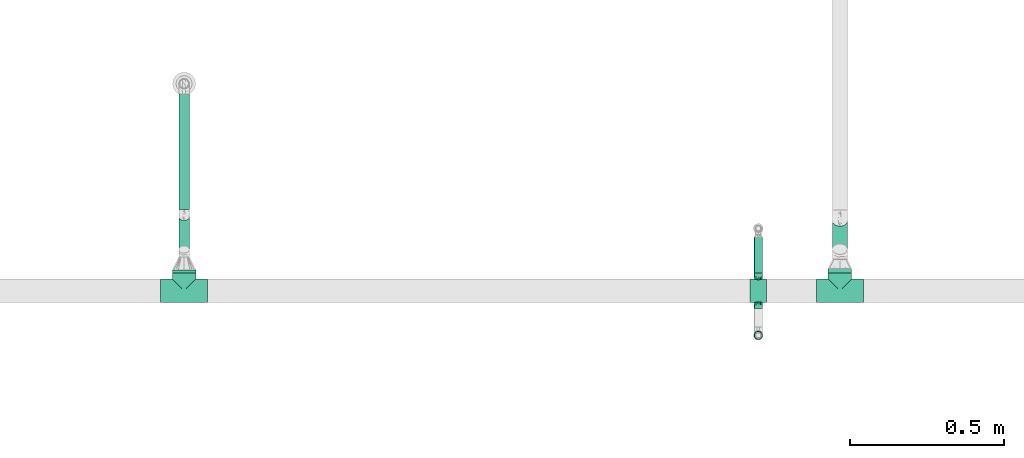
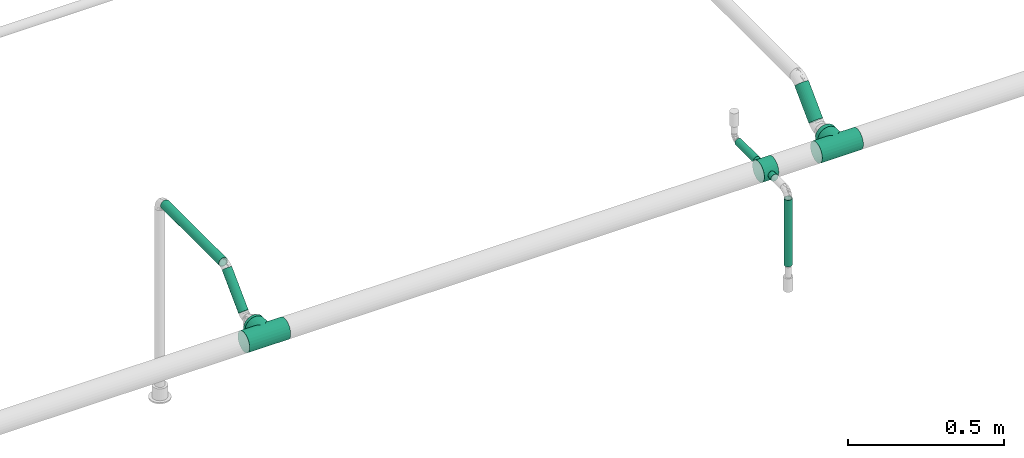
# One storey, part 5 of 51: 7 flow segments, 3 flow fittings.
"""IFC2X3 building model written with IfcOpenShell, lengths in millimetres."""

from ifc_helpers import new_model, entity, si_unit, converted_unit, derived_unit, direction, frame, origin_with_axes, origin_2d_with_axis, place, context, subcontext, project, spatial, hollow_circle, extrude, open_shell, surface_model, source, transform, mapped, type_object, element, save


model = new_model("IFC2X3")

# Units and contexts
model_context = context("Model", 3, precision=0.01, world=frame((0.0, 4.29681676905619e-09, 0.0)), true_north=direction((4.01073788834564e-13, 1.0)))
plan_context = context("Plan", 3, precision=0.01, world=frame((0.0, 4.29681676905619e-09, 0.0)), true_north=direction((4.01073788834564e-13, 1.0)))
body_context = subcontext(model_context, "Body", "Model", "MODEL_VIEW")
ifc_project = project(units=[converted_unit("PLANEANGLEUNIT", "DEGREE", entity("IfcPositiveLengthMeasure", 0.0174532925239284), si_unit("PLANEANGLEUNIT", "RADIAN"), dimensions=[0, 0, 0, 0, 0, 0, 0]), si_unit("AREAUNIT", "SQUARE_METRE"), si_unit("LENGTHUNIT", "METRE", prefix="MILLI"), si_unit("MASSUNIT", "GRAM", prefix="KILO"), si_unit("POWERUNIT", "WATT"), si_unit("PRESSUREUNIT", "PASCAL"), si_unit("FORCEUNIT", "NEWTON", prefix="KILO"), si_unit("ELECTRICVOLTAGEUNIT", "VOLT"), si_unit("ELECTRICCURRENTUNIT", "AMPERE"), si_unit("THERMODYNAMICTEMPERATUREUNIT", "DEGREE_CELSIUS"), si_unit("TIMEUNIT", "SECOND"), si_unit("VOLUMEUNIT", "CUBIC_METRE"), derived_unit("LINEARVELOCITYUNIT", [(si_unit("LENGTHUNIT", "METRE"), 1), (si_unit("TIMEUNIT", "SECOND"), -1)]), derived_unit("VOLUMETRICFLOWRATEUNIT", [(si_unit("VOLUMEUNIT", "CUBIC_METRE"), 1), (si_unit("TIMEUNIT", "SECOND"), -1)]), derived_unit("THERMALTRANSMITTANCEUNIT", [(si_unit("POWERUNIT", "WATT"), 1), (si_unit("THERMODYNAMICTEMPERATUREUNIT", "KELVIN"), -1), (si_unit("AREAUNIT", "SQUARE_METRE"), -1)]), derived_unit("SOUNDPRESSUREUNIT", [(si_unit("PRESSUREUNIT", "PASCAL"), 1)])], contexts=[model_context, plan_context])

# Site, building, storey
site_placement = place(None, frame((0.0, -4.29681676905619e-09, 0.0), z_axis=(0.0, 0.0, 1.0), x_axis=(1.0, 0.0, 0.0)))
site = spatial("IfcSite", under=ifc_project, at=site_placement, Name="ENGM", CompositionType="ELEMENT")
building_placement = place(site_placement, frame((0.0, 4.29681676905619e-09, 0.0), z_axis=(0.0, 0.0, 1.0), x_axis=(1.0, 0.0, 0.0)))
building = spatial("IfcBuilding", under=site, at=building_placement, Name="TH", CompositionType="ELEMENT")
storey_placement = place(building_placement, frame((0.0, 0.0, 210200.0), z_axis=(0.0, 0.0, 1.0), x_axis=(1.0, 0.0, 0.0)))
storey = spatial("IfcBuildingStorey", under=building, at=storey_placement, Name="Nivå F - 0,7 m", CompositionType="ELEMENT", Elevation=210200.0)

# Flow fittings
pipe_fitting_type_1 = type_object("IfcPipeFittingType", Name="magi_pipe_fe_tee_centric_90_NOR", PredefinedType="JUNCTION")
shared_shape_1 = source(origin_with_axes(), body_context, "Body", "SurfaceModel", [
    surface_model("IfcShellBasedSurfaceModel", [(-76.2, 19.05, -32.99557), (-76.2, 9.86101, -36.80177), (-76.2, 0.0, -38.1), (-76.2, 26.94077, -26.94077), (-76.2, 36.80177, -9.86101), (-76.2, 32.99557, -19.05), (-76.2, -19.05, -32.99557), (-76.2, -26.94077, -26.94077), (-76.2, -9.86101, -36.80177), (-76.2, 38.1, 0.0), (-76.2, 36.80177, 9.86101), (-76.2, -38.1, 0.0), (-76.2, -36.80177, -9.86101), (-76.2, -32.99557, -19.05), (-76.2, 32.99557, 19.05), (-76.2, -36.80177, 9.86101), (-76.2, 19.05, 32.99557), (-76.2, 26.94077, 26.94077), (-76.2, 0.0, 38.1), (-76.2, 9.86101, 36.80177), (-76.2, -26.94077, 26.94077), (-76.2, -32.99557, 19.05), (-76.2, -9.86101, 36.80177), (-76.2, -19.05, 32.99557), (76.2, 0.0, -38.1), (76.2, -36.80177, 9.86101), (76.2, -38.1, 0.0), (76.2, 36.80177, -9.86101), (76.2, 9.86101, -36.80177), (76.2, 19.05, -32.99557), (76.2, 26.94077, -26.94077), (76.2, 32.99557, -19.05), (76.2, -9.86101, -36.80177), (76.2, -26.94077, -26.94077), (76.2, -19.05, -32.99557), (76.2, -32.99557, -19.05), (76.2, -36.80177, -9.86101), (76.2, 19.05, 32.99557), (76.2, 36.80177, 9.86101), (76.2, 32.99557, 19.05), (76.2, 0.0, 38.1), (76.2, 26.94077, 26.94077), (76.2, 9.86101, 36.80177), (76.2, -32.99557, 19.05), (76.2, -26.94077, 26.94077), (76.2, -19.05, 32.99557), (76.2, -9.86101, 36.80177), (76.2, 38.1, 0.0), (37.03376, -37.03376, 8.95045), (38.1, -38.1, 0.0), (76.2, -34.89867, 14.4555), (35.56052, -35.56052, 12.98504), (34.08727, -34.08727, 17.01964), (18.8305, -18.8305, 33.12132), (76.2, -22.99539, 29.96817), (29.78269, -29.78269, 23.76134), (76.2, -29.96817, 22.99539), (24.5894, -24.5894, 29.10277), (-35.56052, -35.56052, 12.98504), (-76.2, -34.89867, 14.4555), (-34.08727, -34.08727, 17.01964), (-37.03376, -37.03376, 8.95045), (-38.1, -38.1, 0.0), (-18.8305, -18.8305, 33.12132), (-76.2, -22.99539, 29.96817), (-29.78269, -29.78269, 23.76134), (-24.5894, -24.5894, 29.10277), (-76.2, -29.96817, 22.99539), (-12.71924, -12.71924, 35.91422), (6.40528, -6.40528, 37.55772), (12.71924, -12.71924, 35.91422), (0.0, 0.0, 38.1), (-6.40528, -6.40528, 37.55772), (6.40528, -6.40528, -37.55772), (0.0, 0.0, -38.1), (12.71924, -12.71924, -35.91422), (-24.5894, -24.5894, -29.10277), (-76.2, -22.99539, -29.96817), (-35.56052, -35.56052, -12.98504), (-37.03376, -37.03376, -8.95045), (-29.78269, -29.78269, -23.76134), (-76.2, -29.96817, -22.99539), (-6.40528, -6.40528, -37.55772), (-12.71924, -12.71924, -35.91422), (18.8305, -18.8305, -33.12132), (76.2, -22.99539, -29.96817), (24.5894, -24.5894, -29.10277), (-76.2, -34.89867, -14.4555), (-34.08727, -34.08727, -17.01964), (29.78269, -29.78269, -23.76134), (76.2, -29.96817, -22.99539), (37.03376, -37.03376, -8.95045), (35.56052, -35.56052, -12.98504), (34.08727, -34.08727, -17.01964), (76.2, -34.89867, -14.4555), (-18.8305, -18.8305, -33.12132), (0.0, -57.15, -38.1), (9.86101, -57.15, -36.80177), (19.05, -57.15, -32.99557), (26.94077, -57.15, -26.94077), (32.99557, -57.15, -19.05), (36.80177, -57.15, -9.86101), (0.0, -57.15, 38.1), (-26.94077, -57.15, -26.94077), (-9.86101, -57.15, -36.80177), (-19.05, -57.15, -32.99557), (-36.80177, -57.15, -9.86101), (-32.99557, -57.15, -19.05), (-32.99557, -57.15, 19.05), (-36.80177, -57.15, 9.86101), (-38.1, -57.15, 0.0), (19.05, -57.15, 32.99557), (36.80177, -57.15, 9.86101), (32.99557, -57.15, 19.05), (26.94077, -57.15, 26.94077), (9.86101, -57.15, 36.80177), (-26.94077, -57.15, 26.94077), (-19.05, -57.15, 32.99557), (-9.86101, -57.15, 36.80177), (38.1, -57.15, 0.0)], [open_shell([[[0, 1, 2]], [[3, 0, 2]], [[4, 5, 3]], [[6, 7, 8]], [[9, 4, 10]], [[11, 3, 2]], [[4, 3, 11]], [[11, 8, 7]], [[12, 11, 13]], [[7, 13, 11]], [[11, 2, 8]], [[11, 10, 4]], [[14, 10, 11]], [[14, 11, 15]], [[15, 16, 14]], [[17, 14, 16]], [[18, 19, 16]], [[20, 18, 21]], [[15, 21, 18]], [[22, 18, 23]], [[20, 23, 18]], [[18, 16, 15]], [[24, 25, 26]], [[27, 28, 29]], [[30, 31, 27]], [[30, 27, 29]], [[28, 25, 24]], [[32, 33, 34]], [[32, 24, 33]], [[35, 26, 36]], [[26, 35, 33]], [[24, 26, 33]], [[28, 27, 37]], [[27, 38, 37]], [[37, 38, 39]], [[37, 40, 28]], [[37, 39, 41]], [[40, 37, 42]], [[43, 40, 44]], [[25, 28, 43]], [[45, 40, 46]], [[40, 45, 44]], [[40, 43, 28]], [[38, 27, 47]], [[26, 25, 48]], [[48, 49, 26]], [[25, 50, 51]], [[50, 43, 52]], [[45, 53, 54]], [[44, 55, 56]], [[55, 44, 57]], [[43, 55, 52]], [[57, 44, 54]], [[15, 58, 59]], [[60, 59, 58]], [[61, 11, 62]], [[11, 61, 15]], [[15, 61, 58]], [[63, 23, 64]], [[65, 66, 20]], [[65, 67, 21]], [[20, 66, 64]], [[63, 68, 23]], [[65, 21, 60]], [[50, 52, 51]], [[54, 53, 57]], [[46, 40, 69]], [[25, 51, 48]], [[53, 45, 70]], [[69, 70, 46]], [[65, 20, 67]], [[69, 40, 71]], [[70, 45, 46]], [[14, 41, 39]], [[10, 39, 38]], [[16, 42, 37]], [[17, 37, 41]], [[42, 71, 40]], [[9, 38, 47]], [[72, 71, 18]], [[60, 21, 59]], [[72, 22, 68]], [[22, 72, 18]], [[22, 23, 68]], [[71, 19, 18]], [[63, 64, 66]], [[42, 19, 71]], [[16, 19, 42]], [[16, 37, 17]], [[14, 17, 41]], [[10, 14, 39]], [[38, 9, 10]], [[55, 43, 56]], [[3, 31, 30]], [[4, 27, 31]], [[9, 47, 27]], [[0, 30, 29]], [[24, 32, 73]], [[28, 24, 74]], [[73, 32, 75]], [[76, 7, 77]], [[29, 28, 1]], [[32, 34, 75]], [[24, 73, 74]], [[4, 31, 5]], [[0, 3, 30]], [[5, 31, 3]], [[9, 27, 4]], [[12, 78, 79]], [[80, 13, 81]], [[82, 83, 8]], [[74, 82, 2]], [[74, 2, 1]], [[2, 82, 8]], [[83, 6, 8]], [[1, 0, 29]], [[74, 1, 28]], [[84, 85, 86]], [[85, 33, 86]], [[87, 88, 78]], [[84, 34, 85]], [[89, 86, 33]], [[90, 35, 89]], [[34, 84, 75]], [[36, 91, 92]], [[91, 36, 26]], [[93, 94, 92]], [[49, 91, 26]], [[35, 93, 89]], [[76, 77, 95]], [[36, 92, 94]], [[77, 6, 95]], [[7, 76, 80]], [[7, 80, 81]], [[93, 35, 94]], [[95, 6, 83]], [[79, 62, 11]], [[12, 87, 78]], [[88, 87, 13]], [[12, 79, 11]], [[88, 13, 80]], [[89, 33, 90]], [[96, 97, 98]], [[96, 98, 99]], [[99, 100, 101]], [[99, 101, 96]], [[102, 103, 96]], [[104, 103, 105]], [[104, 96, 103]], [[103, 106, 107]], [[103, 108, 106]], [[106, 109, 110]], [[111, 96, 101]], [[112, 113, 101]], [[101, 113, 111]], [[111, 102, 96]], [[111, 113, 114]], [[102, 111, 115]], [[108, 102, 116]], [[109, 106, 108]], [[117, 102, 118]], [[102, 117, 116]], [[102, 108, 103]], [[112, 101, 119]], [[61, 62, 110]], [[109, 61, 110]], [[116, 117, 66]], [[65, 108, 116]], [[60, 109, 108]], [[68, 117, 118]], [[60, 61, 109]], [[66, 65, 116]], [[60, 108, 65]], [[68, 63, 117]], [[102, 71, 72]], [[68, 118, 72]], [[66, 117, 63]], [[72, 118, 102]], [[69, 102, 115]], [[111, 70, 115]], [[113, 112, 52]], [[55, 114, 113]], [[57, 111, 114]], [[48, 112, 119]], [[57, 53, 111]], [[70, 69, 115]], [[53, 70, 111]], [[49, 48, 119]], [[52, 55, 113]], [[48, 52, 112]], [[57, 114, 55]], [[102, 69, 71]], [[49, 119, 91]], [[101, 91, 119]], [[89, 100, 99]], [[99, 98, 86]], [[93, 101, 100]], [[75, 98, 97]], [[93, 91, 101]], [[86, 89, 99]], [[93, 100, 89]], [[75, 84, 98]], [[96, 74, 73]], [[75, 97, 73]], [[86, 98, 84]], [[73, 97, 96]], [[82, 96, 104]], [[105, 83, 104]], [[107, 106, 88]], [[80, 103, 107]], [[76, 105, 103]], [[79, 106, 110]], [[76, 95, 105]], [[83, 82, 104]], [[95, 83, 105]], [[62, 79, 110]], [[88, 80, 107]], [[79, 88, 106]], [[76, 103, 80]], [[96, 82, 74]]])]),
])
for number, where, z_axis, x_axis, name in (
    (1, (901220.93402, 484329.45519, 2933.0), (0.0, 0.0, 1.0), (-1.0, 0.0, 0.0), "magi_pipe_fe_tee_centric_90_NOR"),
    (2, (903344.15403, 484329.45519, 2933.0), (0.0, 0.0, 1.0), (-1.0, 0.0, 0.0), "magi_pipe_fe_tee_centric_90_NOR"),
):
    element("IfcFlowFitting", number, at=place(storey_placement, frame(where, z_axis=z_axis, x_axis=x_axis)), inside=storey, type_object=pipe_fitting_type_1, Name=name, context=body_context, shape_type="MappedRepresentation", body=[
        mapped(shared_shape_1, transform((0.0, 0.0, 0.0), scale=1.0)),
    ])
pipe_fitting_type_2 = type_object("IfcPipeFittingType", Name="magi_pipe_fe_cross_centric_90_001", PredefinedType="JUNCTION")
shared_shape_2 = source(origin_with_axes(), body_context, "Body", "SurfaceModel", [
    surface_model("IfcShellBasedSurfaceModel", [(-26.8, 19.05, -32.99557), (-26.8, 9.86101, -36.80177), (-26.8, 0.0, -38.1), (-26.8, 26.94077, -26.94077), (-26.8, 36.80177, -9.86101), (-26.8, 32.99557, -19.05), (-26.8, -36.80177, 9.86101), (-26.8, -38.1, 0.0), (-26.8, -19.05, -32.99557), (-26.8, -26.94077, -26.94077), (-26.8, -9.86101, -36.80177), (-26.8, -36.80177, -9.86101), (-26.8, -32.99557, -19.05), (-26.8, 38.1, 0.0), (-26.8, 32.99557, 19.05), (-26.8, 36.80177, 9.86101), (-26.8, 19.05, 32.99557), (-26.8, 26.94077, 26.94077), (-26.8, 0.0, 38.1), (-26.8, 9.86101, 36.80177), (-26.8, -26.94077, 26.94077), (-26.8, -32.99557, 19.05), (-26.8, -9.86101, 36.80177), (-26.8, -19.05, 32.99557), (26.8, 0.0, -38.1), (26.8, 9.86101, -36.80177), (26.8, 19.05, -32.99557), (26.8, 26.94077, -26.94077), (26.8, 32.99557, -19.05), (26.8, 36.80177, -9.86101), (26.8, -26.94077, -26.94077), (26.8, -38.1, 0.0), (26.8, -9.86101, -36.80177), (26.8, -19.05, -32.99557), (26.8, -32.99557, -19.05), (26.8, -36.80177, -9.86101), (26.8, 36.80177, 9.86101), (26.8, 32.99557, 19.05), (26.8, 19.05, 32.99557), (26.8, 0.0, 38.1), (26.8, 26.94077, 26.94077), (26.8, 9.86101, 36.80177), (26.8, -32.99557, 19.05), (26.8, -26.94077, 26.94077), (26.8, -36.80177, 9.86101), (26.8, -19.05, 32.99557), (26.8, -9.86101, 36.80177), (26.8, 38.1, 0.0), (10.25617, -37.11117, 8.62386), (26.8, -37.45089, 4.9305), (12.58238, -37.82018, 4.60909), (13.4, -38.1, 0.0), (6.72002, -36.29337, 11.59316), (2.34178, -35.74261, 13.19379), (-12.58238, 37.82018, 4.60909), (-26.8, 37.45089, 4.9305), (-10.25983, -37.11218, 8.6195), (-6.72112, -36.29357, 11.59252), (-26.8, -37.45089, 4.9305), (-13.4, -38.1, 0.0), (-12.58273, -37.8203, 4.60814), (-2.34536, -35.74284, 13.19315), (12.58273, 37.8203, 4.60814), (26.8, 37.45089, 4.9305), (13.4, 38.1, 0.0), (10.25983, 37.11218, 8.6195), (6.72112, 36.29357, 11.59252), (2.34536, 35.74284, 13.19315), (-2.34178, 35.74261, 13.19379), (-6.72002, 36.29337, 11.59316), (-10.25617, 37.11117, 8.62386), (-13.4, 38.1, 0.0), (10.25983, 37.11218, -8.6195), (26.8, 37.45089, -4.9305), (12.58273, 37.8203, -4.60814), (6.72112, 36.29357, -11.59252), (-10.25617, 37.11117, -8.62386), (-26.8, 37.45089, -4.9305), (-12.58238, 37.82018, -4.60909), (2.34536, 35.74284, -13.19315), (-2.34178, 35.74261, -13.19379), (-6.72002, 36.29337, -11.59316), (-12.58273, -37.8203, -4.60814), (-26.8, -37.45089, -4.9305), (10.25617, -37.11117, -8.62386), (26.8, -37.45089, -4.9305), (12.58238, -37.82018, -4.60909), (6.72002, -36.29337, -11.59316), (2.34178, -35.74261, -13.19379), (-2.34536, -35.74284, -13.19315), (-6.72112, -36.29357, -11.59252), (-10.25983, -37.11218, -8.6195), (9.47523, -57.15, -9.47523), (0.0, -57.15, -13.4), (3.46818, -57.15, -12.94341), (6.7, -57.15, -11.60474), (11.60474, -57.15, -6.7), (12.94341, -57.15, -3.46818), (-12.94341, -57.15, 3.46818), (-12.94341, -57.15, -3.46818), (-3.46818, -57.15, -12.94341), (-9.47523, -57.15, -9.47523), (-6.7, -57.15, -11.60474), (-11.60474, -57.15, -6.7), (-13.4, -57.15, 0.0), (13.4, -57.15, 0.0), (12.94341, -57.15, 3.46818), (11.60474, -57.15, 6.7), (6.7, -57.15, 11.60474), (9.47523, -57.15, 9.47523), (3.46818, -57.15, 12.94341), (-9.47523, -57.15, 9.47523), (-11.60474, -57.15, 6.7), (-6.7, -57.15, 11.60474), (-3.46818, -57.15, 12.94341), (0.0, -57.15, 13.4), (-12.99136, -37.96015, 2.30407), (-4.53324, -36.01821, 12.39284), (-0.00179, -35.74272, 13.19347), (4.5309, -36.01799, 12.39347), (12.99119, -37.96009, 2.30455), (12.99119, -37.96009, -2.30455), (-12.99136, -37.96015, -2.30407), (4.5309, -36.01799, -12.39347), (-0.00179, -35.74272, -13.19347), (-4.53324, -36.01821, -12.39284), (0.0, 57.15, -13.4), (-3.46818, 57.15, -12.94341), (-6.7, 57.15, -11.60474), (-9.47523, 57.15, -9.47523), (-11.60474, 57.15, -6.7), (-12.94341, 57.15, -3.46818), (11.60474, 57.15, -6.7), (12.94341, 57.15, 3.46818), (12.94341, 57.15, -3.46818), (3.46818, 57.15, -12.94341), (9.47523, 57.15, -9.47523), (6.7, 57.15, -11.60474), (13.4, 57.15, 0.0), (-13.4, 57.15, 0.0), (-12.94341, 57.15, 3.46818), (-11.60474, 57.15, 6.7), (-6.7, 57.15, 11.60474), (-9.47523, 57.15, 9.47523), (0.0, 57.15, 13.4), (-3.46818, 57.15, 12.94341), (11.60474, 57.15, 6.7), (6.7, 57.15, 11.60474), (9.47523, 57.15, 9.47523), (3.46818, 57.15, 12.94341), (12.99136, 37.96015, 2.30407), (4.53324, 36.01821, 12.39284), (0.00179, 35.74272, 13.19347), (-4.5309, 36.01799, 12.39347), (-12.99119, 37.96009, 2.30455), (-12.99119, 37.96009, -2.30455), (12.99136, 37.96015, -2.30407), (-4.5309, 36.01799, -12.39347), (0.00179, 35.74272, -13.19347), (4.53324, 36.01821, -12.39284)], [open_shell([[[0, 1, 2]], [[3, 0, 2]], [[4, 5, 3]], [[6, 2, 7]], [[2, 6, 3]], [[8, 9, 10]], [[7, 10, 9]], [[11, 7, 12]], [[9, 12, 7]], [[7, 2, 10]], [[13, 4, 3]], [[14, 15, 13]], [[14, 13, 6]], [[6, 16, 14]], [[17, 14, 16]], [[16, 18, 19]], [[20, 18, 21]], [[6, 21, 18]], [[22, 18, 23]], [[20, 23, 18]], [[18, 16, 6]], [[3, 6, 13]], [[24, 25, 26]], [[24, 26, 27]], [[27, 28, 29]], [[24, 27, 30]], [[31, 27, 29]], [[32, 30, 33]], [[32, 24, 30]], [[34, 31, 35]], [[31, 34, 30]], [[27, 31, 30]], [[29, 36, 31]], [[36, 37, 31]], [[31, 37, 38]], [[38, 39, 31]], [[38, 37, 40]], [[39, 38, 41]], [[42, 39, 43]], [[44, 31, 42]], [[45, 39, 46]], [[39, 45, 43]], [[39, 42, 31]], [[36, 29, 47]], [[44, 48, 49]], [[50, 51, 31]], [[50, 49, 48]], [[44, 52, 48]], [[43, 20, 42]], [[45, 23, 43]], [[52, 42, 53]], [[42, 52, 44]], [[21, 53, 42]], [[45, 46, 22]], [[54, 13, 55]], [[56, 57, 6]], [[56, 6, 58]], [[59, 60, 7]], [[7, 60, 58]], [[57, 21, 6]], [[53, 21, 61]], [[42, 20, 21]], [[61, 21, 57]], [[23, 20, 43]], [[45, 22, 23]], [[46, 18, 22]], [[50, 31, 49]], [[46, 39, 18]], [[40, 17, 38]], [[41, 19, 39]], [[41, 38, 16]], [[14, 40, 37]], [[62, 63, 47]], [[62, 47, 64]], [[65, 66, 36]], [[65, 36, 63]], [[36, 66, 37]], [[67, 37, 66]], [[19, 41, 16]], [[68, 37, 67]], [[56, 58, 60]], [[37, 68, 14]], [[17, 16, 38]], [[40, 14, 17]], [[68, 69, 14]], [[65, 63, 62]], [[54, 55, 70]], [[69, 70, 15]], [[55, 15, 70]], [[13, 54, 71]], [[69, 15, 14]], [[39, 19, 18]], [[29, 72, 73]], [[74, 64, 47]], [[74, 73, 72]], [[29, 75, 72]], [[76, 77, 78]], [[79, 28, 80]], [[28, 79, 75]], [[27, 5, 28]], [[26, 3, 27]], [[26, 25, 0]], [[28, 75, 29]], [[76, 81, 4]], [[76, 4, 77]], [[71, 78, 13]], [[13, 78, 77]], [[81, 5, 4]], [[0, 3, 26]], [[25, 1, 0]], [[82, 7, 83]], [[3, 5, 27]], [[5, 80, 28]], [[84, 85, 86]], [[25, 2, 1]], [[80, 5, 81]], [[74, 47, 73]], [[25, 24, 2]], [[30, 9, 33]], [[32, 10, 24]], [[32, 33, 8]], [[12, 30, 34]], [[86, 85, 31]], [[86, 31, 51]], [[84, 87, 35]], [[84, 35, 85]], [[35, 87, 34]], [[88, 34, 87]], [[10, 32, 8]], [[88, 12, 34]], [[12, 88, 89]], [[9, 8, 33]], [[30, 12, 9]], [[89, 90, 12]], [[82, 83, 91]], [[90, 91, 11]], [[83, 11, 91]], [[7, 82, 59]], [[90, 11, 12]], [[24, 10, 2]], [[92, 93, 94]], [[92, 94, 95]], [[92, 96, 97]], [[93, 92, 98]], [[98, 99, 93]], [[100, 101, 102]], [[100, 93, 101]], [[103, 101, 93]], [[93, 99, 103]], [[99, 98, 104]], [[98, 92, 97]], [[105, 106, 107]], [[107, 108, 97]], [[108, 98, 97]], [[108, 107, 109]], [[98, 108, 110]], [[98, 111, 112]], [[111, 98, 113]], [[98, 114, 113]], [[114, 98, 115]], [[98, 110, 115]], [[97, 105, 107]], [[98, 116, 104]], [[56, 112, 111]], [[98, 112, 60]], [[111, 113, 57]], [[116, 59, 104]], [[60, 112, 56]], [[114, 61, 117]], [[57, 56, 111]], [[115, 53, 118]], [[108, 119, 110]], [[120, 105, 51]], [[117, 113, 114]], [[117, 57, 113]], [[52, 108, 109]], [[98, 60, 116]], [[50, 107, 106]], [[120, 50, 106]], [[107, 48, 109]], [[115, 61, 114]], [[110, 119, 53]], [[53, 115, 110]], [[52, 119, 108]], [[52, 109, 48]], [[48, 107, 50]], [[105, 120, 106]], [[118, 61, 115]], [[97, 121, 105]], [[84, 96, 92]], [[122, 104, 59]], [[96, 86, 97]], [[95, 87, 92]], [[121, 51, 105]], [[86, 96, 84]], [[94, 88, 123]], [[87, 84, 92]], [[93, 89, 124]], [[102, 125, 100]], [[123, 87, 95]], [[123, 95, 94]], [[97, 86, 121]], [[90, 102, 101]], [[102, 90, 125]], [[82, 103, 99]], [[103, 91, 101]], [[93, 88, 94]], [[89, 93, 100]], [[125, 89, 100]], [[124, 88, 93]], [[90, 101, 91]], [[91, 103, 82]], [[104, 122, 99]], [[122, 82, 99]], [[126, 127, 128]], [[126, 128, 129]], [[129, 130, 131]], [[126, 129, 132]], [[129, 133, 134]], [[135, 136, 137]], [[136, 135, 132]], [[126, 132, 135]], [[129, 134, 132]], [[134, 133, 138]], [[129, 131, 133]], [[139, 140, 141]], [[139, 141, 142]], [[139, 142, 133]], [[142, 141, 143]], [[144, 142, 145]], [[146, 147, 148]], [[144, 146, 133]], [[146, 149, 147]], [[149, 146, 144]], [[133, 142, 144]], [[139, 133, 131]], [[133, 150, 138]], [[65, 146, 148]], [[133, 146, 62]], [[148, 147, 66]], [[150, 64, 138]], [[62, 146, 65]], [[149, 67, 151]], [[66, 65, 148]], [[144, 68, 152]], [[142, 153, 145]], [[154, 139, 71]], [[151, 147, 149]], [[151, 66, 147]], [[69, 142, 143]], [[133, 62, 150]], [[54, 141, 140]], [[154, 54, 140]], [[141, 70, 143]], [[144, 67, 149]], [[145, 153, 68]], [[68, 144, 145]], [[69, 153, 142]], [[69, 143, 70]], [[70, 141, 54]], [[139, 154, 140]], [[152, 67, 144]], [[131, 155, 139]], [[76, 130, 129]], [[156, 138, 64]], [[130, 78, 131]], [[128, 81, 129]], [[155, 71, 139]], [[78, 130, 76]], [[127, 80, 157]], [[81, 76, 129]], [[126, 79, 158]], [[137, 159, 135]], [[157, 81, 128]], [[157, 128, 127]], [[131, 78, 155]], [[75, 137, 136]], [[137, 75, 159]], [[74, 132, 134]], [[132, 72, 136]], [[126, 80, 127]], [[79, 126, 135]], [[159, 79, 135]], [[158, 80, 126]], [[75, 136, 72]], [[72, 132, 74]], [[138, 156, 134]], [[156, 74, 134]]])]),
])
flow_fitting_placement = place(storey_placement, frame((903080.0, 484329.45519, 2933.0), z_axis=(0.0, 0.0, 1.0), x_axis=(-1.0, 0.0, 0.0)))
element("IfcFlowFitting", 3, at=flow_fitting_placement, inside=storey, type_object=pipe_fitting_type_2, Name="magi_pipe_fe_cross_centric_90_001", context=body_context, shape_type="MappedRepresentation", body=[
    mapped(shared_shape_2, transform((0.0, 0.0, 0.0), scale=1.0)),
])

# Flow segments
pipe_segment_type = type_object("IfcPipeSegmentType", Name="Stålrør normaltykke", PredefinedType="RIGIDSEGMENT")
shared_shape_3 = source(origin_with_axes(), body_context, "Body", "SweptSolid", [
    extrude(hollow_circle(Radius=16.9, WallThickness=2.0, at=origin_2d_with_axis()), frame((0.0, 0.0, 0.0), z_axis=(1.0, 0.0, 0.0), x_axis=(0.0, 1.0, 0.0)), (0.0, 0.0, 1.0), 373.1),
])
flow_segment_1_placement = place(storey_placement, frame((901220.93402, 484966.2, 3058.80692999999), z_axis=(0.0, 0.0, 1.0), x_axis=(0.0, -1.0, 0.0)))
element("IfcFlowSegment", 4, at=flow_segment_1_placement, inside=storey, type_object=pipe_segment_type, Name="Stålrør normaltykke", context=body_context, shape_type="MappedRepresentation", body=[
    mapped(shared_shape_3, transform((0.0, 0.0, 0.0), scale=1.0)),
])
shared_shape_4 = source(origin_with_axes(), body_context, "Body", "SweptSolid", [
    extrude(hollow_circle(Radius=38.0, WallThickness=2.0, at=origin_2d_with_axis()), frame((0.0, 0.0, 0.0), z_axis=(1.0, 0.0, 0.0), x_axis=(0.0, 1.0, 0.0)), (0.0, 0.0, 1.0), 10.3),
])
flow_segment_2_placement = place(storey_placement, frame((901220.93402, 484386.60519, 2933.0), z_axis=(0.0, 0.0, 1.0), x_axis=(0.0, 1.0, 0.0)))
element("IfcFlowSegment", 5, at=flow_segment_2_placement, inside=storey, type_object=pipe_segment_type, Name="Stålrør normaltykke", context=body_context, shape_type="MappedRepresentation", body=[
    mapped(shared_shape_4, transform((0.0, 0.0, 0.0), scale=1.0)),
])
shared_shape_5 = source(origin_with_axes(), body_context, "Body", "SweptSolid", [
    extrude(hollow_circle(Radius=16.9, WallThickness=2.0, at=origin_2d_with_axis()), frame((0.0, 0.0, 0.0), z_axis=(1.0, 0.0, 0.0), x_axis=(0.0, 1.0, 0.0)), (0.0, 0.0, 1.0), 149.9),
])
flow_segment_3_placement = place(storey_placement, frame((901220.93402, 484463.21844, 2942.89979), z_axis=(0.0, -0.707106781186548, 0.707106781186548), x_axis=(0.0, 0.707106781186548, 0.707106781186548)))
element("IfcFlowSegment", 6, at=flow_segment_3_placement, inside=storey, type_object=pipe_segment_type, Name="Stålrør normaltykke", context=body_context, shape_type="MappedRepresentation", body=[
    mapped(shared_shape_5, transform((0.0, 0.0, 0.0), scale=1.0)),
])
shared_shape_6 = source(origin_with_axes(), body_context, "Body", "SweptSolid", [
    extrude(hollow_circle(Radius=38.0, WallThickness=2.0, at=origin_2d_with_axis()), frame((0.0, 0.0, 0.0), z_axis=(1.0, 0.0, 0.0), x_axis=(0.0, 1.0, 0.0)), (0.0, 0.0, 1.0), 16.0),
])
flow_segment_4_placement = place(storey_placement, frame((903344.15403, 484386.60519, 2933.0), z_axis=(0.0, 0.0, 1.0), x_axis=(0.0, 1.0, 0.0)))
element("IfcFlowSegment", 7, at=flow_segment_4_placement, inside=storey, type_object=pipe_segment_type, Name="Stålrør normaltykke", context=body_context, shape_type="MappedRepresentation", body=[
    mapped(shared_shape_6, transform((0.0, 0.0, 0.0), scale=1.0)),
])
shared_shape_7 = source(origin_with_axes(), body_context, "Body", "SweptSolid", [
    extrude(hollow_circle(Radius=24.1, WallThickness=2.0, at=origin_2d_with_axis()), frame((0.0, 0.0, 0.0), z_axis=(1.0, 0.0, 0.0), x_axis=(0.0, 1.0, 0.0)), (0.0, 0.0, 1.0), 129.6),
])
flow_segment_5_placement = place(storey_placement, frame((903344.15403, 484464.59122, 2947.17603), z_axis=(0.0, -0.707106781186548, 0.707106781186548), x_axis=(0.0, 0.707106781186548, 0.707106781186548)))
element("IfcFlowSegment", 8, at=flow_segment_5_placement, inside=storey, type_object=pipe_segment_type, Name="Stålrør normaltykke", context=body_context, shape_type="MappedRepresentation", body=[
    mapped(shared_shape_7, transform((0.0, 0.0, 0.0), scale=1.0)),
])
shared_shape_8 = source(origin_with_axes(), body_context, "Body", "SweptSolid", [
    extrude(hollow_circle(Radius=13.3, WallThickness=2.0, at=origin_2d_with_axis()), frame((0.0, 0.0, 0.0), z_axis=(1.0, 0.0, 0.0), x_axis=(0.0, 1.0, 0.0)), (0.0, 0.0, 1.0), 260.9),
])
flow_segment_6_placement = place(storey_placement, frame((903080.0, 484185.40642, 2645.32693000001), z_axis=(1.0, 0.0, 0.0), x_axis=(0.0, 0.0, 1.0)))
element("IfcFlowSegment", 9, at=flow_segment_6_placement, inside=storey, type_object=pipe_segment_type, Name="Stålrør normaltykke", context=body_context, shape_type="MappedRepresentation", body=[
    mapped(shared_shape_8, transform((0.0, 0.0, 0.0), scale=1.0)),
])
shared_shape_9 = source(origin_with_axes(), body_context, "Body", "SweptSolid", [
    extrude(hollow_circle(Radius=13.3, WallThickness=2.0, at=origin_2d_with_axis()), frame((0.0, 0.0, 0.0), z_axis=(1.0, 0.0, 0.0), x_axis=(0.0, 1.0, 0.0)), (0.0, 0.0, 1.0), 118.1),
])
flow_segment_7_placement = place(storey_placement, frame((903080.0, 484386.60519, 2933.0), z_axis=(0.0, 0.0, 1.0), x_axis=(0.0, 1.0, 0.0)))
element("IfcFlowSegment", 10, at=flow_segment_7_placement, inside=storey, type_object=pipe_segment_type, Name="Stålrør normaltykke", context=body_context, shape_type="MappedRepresentation", body=[
    mapped(shared_shape_9, transform((0.0, 0.0, 0.0), scale=1.0)),
])

save(model, "model.ifc")
